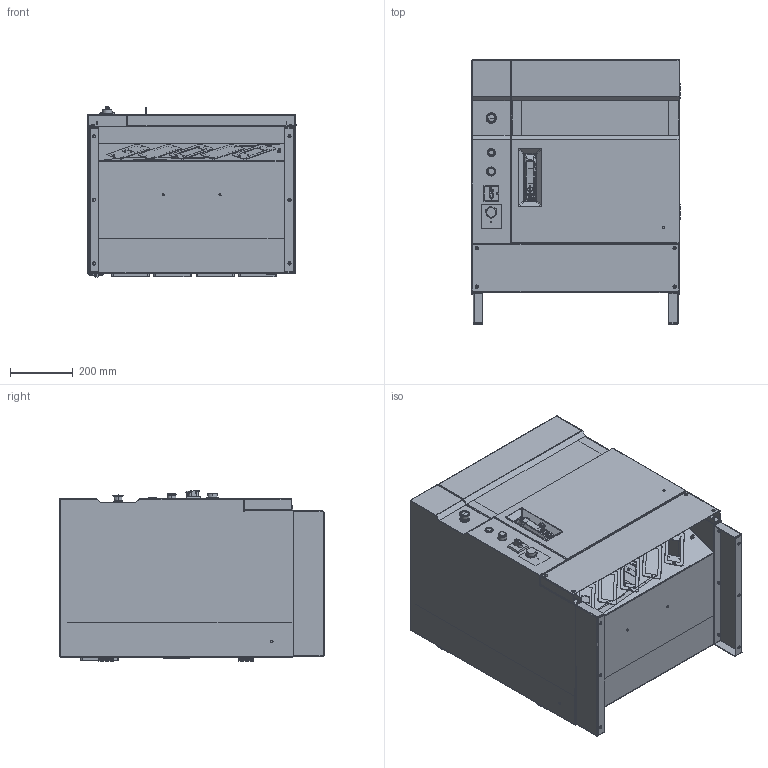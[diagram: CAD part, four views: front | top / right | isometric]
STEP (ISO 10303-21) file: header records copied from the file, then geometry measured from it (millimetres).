
FILE_DESCRIPTION (( 'STEP AP203' ), '1' );
FILE_NAME ('机器人20电控柜 模型.STEP', '2020-11-11T02:50:09', ( 'Topstarltd' ), ( 'Topstarltd.Com' ), 'SwSTEP 2.0', 'SolidWorks 2016', '' );
FILE_SCHEMA (( 'CONFIG_CONTROL_DESIGN' ));
Products named in the file (1): 机器人20电控柜 模型
Bounding box: 662 x 839.5 x 543.02 mm (x, y, z)
Surface area: 6119662.5 mm2 (no closed solid volume)
Topology: 0 solids, 199 shells, 1482 faces, 7002 edges, 5430 vertices
Faces by surface type: plane 1009, cylinder 385, bspline 38, torus 29, cone 21
Entity records: 108671 total; most frequent: CARTESIAN_POINT 55399, ORIENTED_EDGE 9497, DIRECTION 9421, EDGE_CURVE 6993, VERTEX_POINT 5429, LINE 4829, VECTOR 4829, EDGE_LOOP 2308
